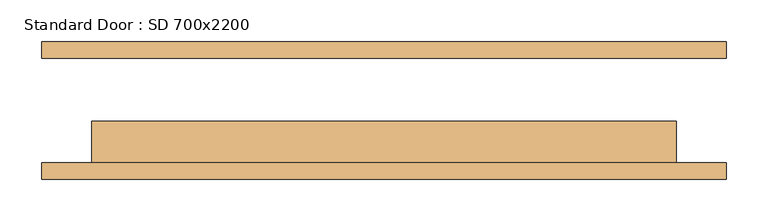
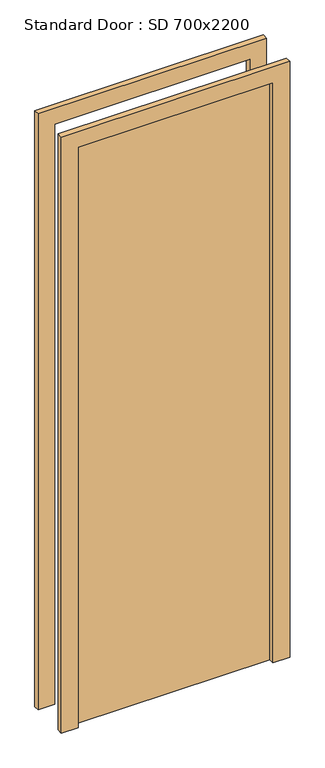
"""IFC4 building model written with IfcOpenShell, lengths in millimetres: door geometry, Standard Door : SD 700x2200."""

from ifc_helpers import new_model, si_unit, frame, origin, origin_with_axes, place, context, project, spatial, polyline, outline, extrude, source, transform, mapped, element, save


def standard_door_sd_700x2200_1ab33439(model_context):
    return source(origin(), model_context, "Body", "SweptSolid", [
        extrude(outline(polyline([(2260.0, -410.0), (0.0, -410.0), (0.0, -350.0), (2200.0, -350.0), (2200.0, 350.0), (0.0, 350.0), (0.0, 410.0), (2260.0, 410.0), (2260.0, -410.0)])), frame((0.0, -82.5, 0.0), z_axis=(0.0, 1.0, 0.0), x_axis=(0.0, 0.0, 1.0)), (0.0, 0.0, 1.0), 20.0),
        extrude(outline(polyline([(2260.0, 410.0), (2260.0, -410.0), (0.0, -410.0), (0.0, -350.0), (2200.0, -350.0), (2200.0, 350.0), (0.0, 350.0), (0.0, 410.0), (2260.0, 410.0)])), frame((0.0, 62.5, 0.0), z_axis=(0.0, 1.0, 0.0), x_axis=(0.0, 0.0, 1.0)), (0.0, 0.0, 1.0), 20.0),
        extrude(outline(polyline([(350.0, -12.5), (350.0, -62.5), (-350.0, -62.5), (-350.0, -12.5), (350.0, -12.5)])), origin_with_axes(), (0.0, 0.0, 1.0), 2200.0),
    ])


if __name__ == "__main__":
    model = new_model("IFC4")
    model_context = context("Model", 3, world=origin())
    ifc_project = project(units=[si_unit("LENGTHUNIT", "METRE", prefix="MILLI")], contexts=[model_context])
    site = spatial("IfcSite", under=ifc_project)
    building = spatial("IfcBuilding", under=site)
    placement = place(None, origin())
    standard_door_sd_700x2200_shape = standard_door_sd_700x2200_1ab33439(model_context)
    element("IfcDoor", 1, ObjectType="Standard Door : SD 700x2200", at=placement, inside=building, context=model_context, shape_type="MappedRepresentation", body=[
        mapped(standard_door_sd_700x2200_shape, transform((0.0, 0.0, 0.0), x_axis=(1.0, 0.0, 0.0), y_axis=(0.0, 1.0, 0.0), z_axis=(0.0, 0.0, 1.0))),
    ])
    save(model, "model.ifc")
